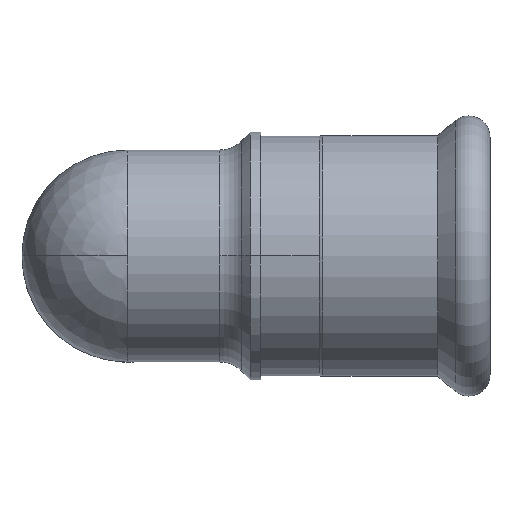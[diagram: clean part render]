
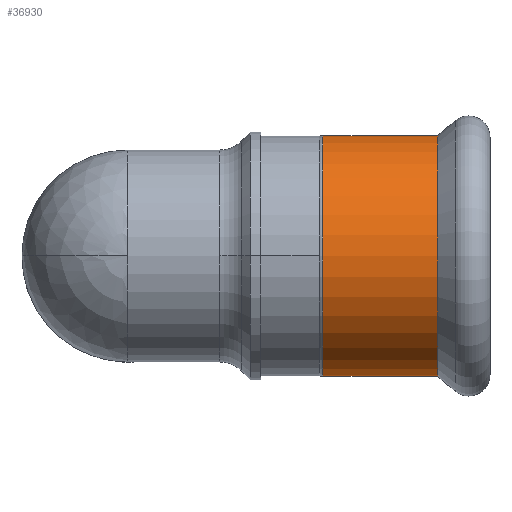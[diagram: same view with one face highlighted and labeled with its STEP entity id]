
A CAD part, top view. The second image highlights one B-rep face of the part: STEP entity #36930.
In plain terms, the highlighted cylindrical face has radius 19.15 mm (diameter 38.3 mm), a partial arc.
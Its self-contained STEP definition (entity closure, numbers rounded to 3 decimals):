
#21500=CARTESIAN_POINT('',(31.,38.15,37.));
#21510=VERTEX_POINT('',#21500);
#21540=CARTESIAN_POINT('',(31.,19.,37.));
#21550=DIRECTION('',(1.,0.,0.));
#21560=DIRECTION('',(0.,1.,0.));
#21570=AXIS2_PLACEMENT_3D('',#21540,#21550,#21560);
#21580=CIRCLE('',#21570,19.15);
#21590=CARTESIAN_POINT('',(31.,-0.15,37.));
#21600=VERTEX_POINT('',#21590);
#21610=EDGE_CURVE('',#21510,#21600,#21580,.T.);
#21830=CARTESIAN_POINT('',(39.86,-0.15,37.));
#21840=DIRECTION('',(-1.,0.,0.));
#21850=VECTOR('',#21840,1.);
#21860=LINE('',#21830,#21850);
#21870=CARTESIAN_POINT('',(49.267,-0.15,37.));
#21880=VERTEX_POINT('',#21870);
#21890=EDGE_CURVE('',#21880,#21600,#21860,.T.);
#21910=CARTESIAN_POINT('',(49.267,19.,37.));
#21920=DIRECTION('',(1.,0.,0.));
#21930=DIRECTION('',(0.,1.,0.));
#21940=AXIS2_PLACEMENT_3D('',#21910,#21920,#21930);
#21950=CIRCLE('',#21940,19.15);
#21960=CARTESIAN_POINT('',(49.267,38.15,37.));
#21970=VERTEX_POINT('',#21960);
#22000=CARTESIAN_POINT('',(39.86,38.15,37.));
#22010=DIRECTION('',(-1.,0.,0.));
#22020=VECTOR('',#22010,1.);
#22030=LINE('',#22000,#22020);
#22040=EDGE_CURVE('',#21970,#21510,#22030,.T.);
#36810=CARTESIAN_POINT('',(39.86,19.,37.));
#36820=DIRECTION('',(-1.,0.,0.));
#36830=DIRECTION('',(0.,1.,0.));
#36840=AXIS2_PLACEMENT_3D('',#36810,#36820,#36830);
#36850=CYLINDRICAL_SURFACE('',#36840,19.15);
#36860=EDGE_CURVE('',#21970,#21880,#21950,.T.);
#36870=ORIENTED_EDGE('',*,*,#36860,.F.);
#36880=ORIENTED_EDGE('',*,*,#21890,.F.);
#36890=ORIENTED_EDGE('',*,*,#21610,.T.);
#36900=ORIENTED_EDGE('',*,*,#22040,.T.);
#36910=EDGE_LOOP('',(#36900,#36890,#36880,#36870));
#36920=FACE_OUTER_BOUND('',#36910,.T.);
#36930=ADVANCED_FACE('',(#36920),#36850,.T.);
